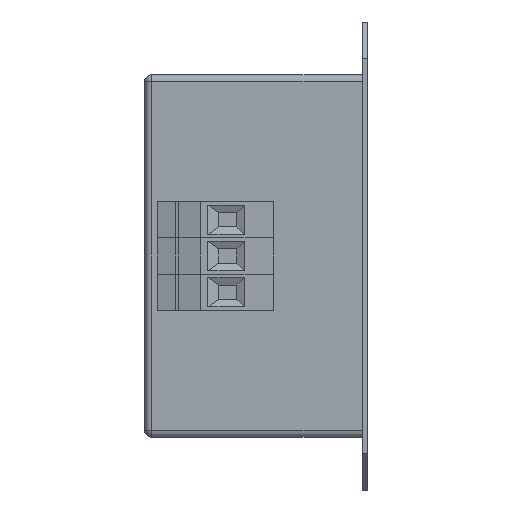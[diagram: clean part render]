
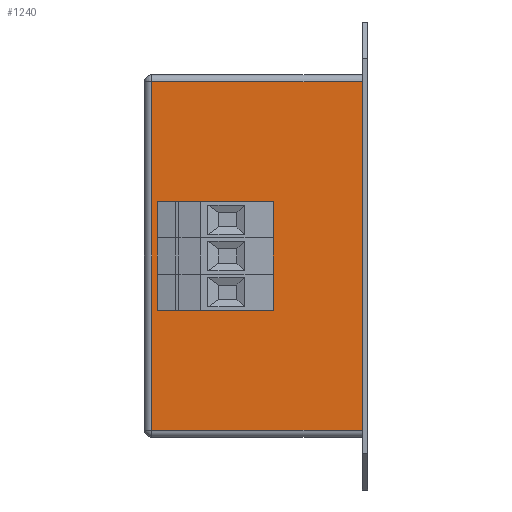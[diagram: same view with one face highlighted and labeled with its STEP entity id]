
A CAD part, left-side view. The second image highlights one B-rep face of the part: STEP entity #1240.
In plain terms, the highlighted planar face has unit normal (-1, 0, 0).
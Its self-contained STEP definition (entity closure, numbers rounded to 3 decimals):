
#1131 = VERTEX_POINT ( 'NONE', #2990 ) ;
#1135 = EDGE_CURVE ( 'NONE', #1131, #1136, #2986, .T. ) ;
#1136 = VERTEX_POINT ( 'NONE', #2981 ) ;
#1140 = ORIENTED_EDGE ( 'NONE', *, *, #1298, .T. ) ;
#1165 = VERTEX_POINT ( 'NONE', #3022 ) ;
#1166 = ORIENTED_EDGE ( 'NONE', *, *, #1135, .T. ) ;
#1167 = EDGE_LOOP ( 'NONE', ( #1140, #1293 ) ) ;
#1170 = VERTEX_POINT ( 'NONE', #3021 ) ;
#1171 = EDGE_LOOP ( 'NONE', ( #1172, #1166 ) ) ;
#1172 = ORIENTED_EDGE ( 'NONE', *, *, #1238, .T. ) ;
#1173 = EDGE_CURVE ( 'NONE', #1170, #1165, #3019, .T. ) ;
#1180 = VERTEX_POINT ( 'NONE', #3010 ) ;
#1193 = VERTEX_POINT ( 'NONE', #3045 ) ;
#1194 = EDGE_CURVE ( 'NONE', #1193, #1180, #3043, .T. ) ;
#1238 = EDGE_CURVE ( 'NONE', #1136, #1131, #3100, .T. ) ;
#1240 = ADVANCED_FACE ( 'NONE', ( #3154, #3153, #3152, #3151 ), #3150, .F. ) ;
#1292 = EDGE_LOOP ( 'NONE', ( #1296, #1295 ) ) ;
#1293 = ORIENTED_EDGE ( 'NONE', *, *, #1194, .T. ) ;
#1294 = EDGE_LOOP ( 'NONE', ( #1435, #1429, #1425, #1428 ) ) ;
#1295 = ORIENTED_EDGE ( 'NONE', *, *, #1173, .T. ) ;
#1296 = ORIENTED_EDGE ( 'NONE', *, *, #1297, .T. ) ;
#1297 = EDGE_CURVE ( 'NONE', #1165, #1170, #3189, .T. ) ;
#1298 = EDGE_CURVE ( 'NONE', #1180, #1193, #3247, .T. ) ;
#1419 = VERTEX_POINT ( 'NONE', #3387 ) ;
#1420 = VERTEX_POINT ( 'NONE', #3386 ) ;
#1425 = ORIENTED_EDGE ( 'NONE', *, *, #1426, .T. ) ;
#1426 = EDGE_CURVE ( 'NONE', #1419, #1432, #3126, .T. ) ;
#1427 = EDGE_CURVE ( 'NONE', #1434, #1420, #3439, .T. ) ;
#1428 = ORIENTED_EDGE ( 'NONE', *, *, #1436, .T. ) ;
#1429 = ORIENTED_EDGE ( 'NONE', *, *, #1433, .T. ) ;
#1432 = VERTEX_POINT ( 'NONE', #3429 ) ;
#1433 = EDGE_CURVE ( 'NONE', #1420, #1419, #3428, .T. ) ;
#1434 = VERTEX_POINT ( 'NONE', #3424 ) ;
#1435 = ORIENTED_EDGE ( 'NONE', *, *, #1427, .T. ) ;
#1436 = EDGE_CURVE ( 'NONE', #1432, #1434, #3423, .T. ) ;
#2981 = CARTESIAN_POINT ( 'NONE',  ( 0., 42., -58.55 ) ) ;
#2982 = DIRECTION ( 'NONE',  ( 0., 0., -1. ) ) ;
#2983 = DIRECTION ( 'NONE',  ( 1., 0., 0. ) ) ;
#2984 = CARTESIAN_POINT ( 'NONE',  ( 0., 42., -54.5 ) ) ;
#2985 = AXIS2_PLACEMENT_3D ( 'NONE', #2984, #2983, #2982 ) ;
#2986 = CIRCLE ( 'NONE', #2985, 4.05 ) ;
#2990 = CARTESIAN_POINT ( 'NONE',  ( 0., 42., -50.45 ) ) ;
#3010 = CARTESIAN_POINT ( 'NONE',  ( 0., 42., -78.55 ) ) ;
#3015 = DIRECTION ( 'NONE',  ( 0., 0., -1. ) ) ;
#3016 = DIRECTION ( 'NONE',  ( 1., 0., 0. ) ) ;
#3017 = CARTESIAN_POINT ( 'NONE',  ( 0., 42., -64.5 ) ) ;
#3018 = AXIS2_PLACEMENT_3D ( 'NONE', #3017, #3016, #3015 ) ;
#3019 = CIRCLE ( 'NONE', #3018, 4.05 ) ;
#3021 = CARTESIAN_POINT ( 'NONE',  ( 0., 42., -60.45 ) ) ;
#3022 = CARTESIAN_POINT ( 'NONE',  ( 0., 42., -68.55 ) ) ;
#3039 = DIRECTION ( 'NONE',  ( 0., 0., -1. ) ) ;
#3040 = DIRECTION ( 'NONE',  ( 1., 0., 0. ) ) ;
#3041 = CARTESIAN_POINT ( 'NONE',  ( 0., 42., -74.5 ) ) ;
#3042 = AXIS2_PLACEMENT_3D ( 'NONE', #3041, #3040, #3039 ) ;
#3043 = CIRCLE ( 'NONE', #3042, 4.05 ) ;
#3045 = CARTESIAN_POINT ( 'NONE',  ( 0., 42., -70.45 ) ) ;
#3096 = DIRECTION ( 'NONE',  ( 0., 0., -1. ) ) ;
#3097 = DIRECTION ( 'NONE',  ( 1., 0., 0. ) ) ;
#3098 = CARTESIAN_POINT ( 'NONE',  ( 0., 42., -54.5 ) ) ;
#3099 = AXIS2_PLACEMENT_3D ( 'NONE', #3098, #3097, #3096 ) ;
#3100 = CIRCLE ( 'NONE', #3099, 4.05 ) ;
#3125 = CARTESIAN_POINT ( 'NONE',  ( 0., 1.5, -114.5 ) ) ;
#3126 = LINE ( 'NONE', #3125, #3441 ) ;
#3145 = DIRECTION ( 'NONE',  ( 0., 0., -1. ) ) ;
#3146 = DIRECTION ( 'NONE',  ( 1., 0., 0. ) ) ;
#3147 = AXIS2_PLACEMENT_3D ( 'NONE', #3149, #3146, #3145 ) ;
#3149 = CARTESIAN_POINT ( 'NONE',  ( 0., 61.5, -114.5 ) ) ;
#3150 = PLANE ( 'NONE',  #3147 ) ;
#3151 = FACE_OUTER_BOUND ( 'NONE', #1294, .T. ) ;
#3152 = FACE_BOUND ( 'NONE', #1292, .T. ) ;
#3153 = FACE_BOUND ( 'NONE', #1167, .T. ) ;
#3154 = FACE_BOUND ( 'NONE', #1171, .T. ) ;
#3189 = CIRCLE ( 'NONE', #3195, 4.05 ) ;
#3195 = AXIS2_PLACEMENT_3D ( 'NONE', #3250, #3249, #3248 ) ;
#3243 = DIRECTION ( 'NONE',  ( 0., 0., -1. ) ) ;
#3244 = DIRECTION ( 'NONE',  ( 1., 0., 0. ) ) ;
#3245 = CARTESIAN_POINT ( 'NONE',  ( 0., 42., -74.5 ) ) ;
#3246 = AXIS2_PLACEMENT_3D ( 'NONE', #3245, #3244, #3243 ) ;
#3247 = CIRCLE ( 'NONE', #3246, 4.05 ) ;
#3248 = DIRECTION ( 'NONE',  ( 0., 0., -1. ) ) ;
#3249 = DIRECTION ( 'NONE',  ( 1., 0., 0. ) ) ;
#3250 = CARTESIAN_POINT ( 'NONE',  ( 0., 42., -64.5 ) ) ;
#3386 = CARTESIAN_POINT ( 'NONE',  ( 0., 59.5, -112.5 ) ) ;
#3387 = CARTESIAN_POINT ( 'NONE',  ( 0., 1.5, -112.5 ) ) ;
#3420 = DIRECTION ( 'NONE',  ( 0., 1., 0. ) ) ;
#3421 = VECTOR ( 'NONE', #3420, 1000. ) ;
#3422 = CARTESIAN_POINT ( 'NONE',  ( 0., 61.5, -16.5 ) ) ;
#3423 = LINE ( 'NONE', #3422, #3421 ) ;
#3424 = CARTESIAN_POINT ( 'NONE',  ( 0., 59.5, -16.5 ) ) ;
#3425 = DIRECTION ( 'NONE',  ( 0., -1., 0. ) ) ;
#3426 = VECTOR ( 'NONE', #3425, 1000. ) ;
#3427 = CARTESIAN_POINT ( 'NONE',  ( 0., 61.5, -112.5 ) ) ;
#3428 = LINE ( 'NONE', #3427, #3426 ) ;
#3429 = CARTESIAN_POINT ( 'NONE',  ( 0., 1.5, -16.5 ) ) ;
#3436 = DIRECTION ( 'NONE',  ( 0., 0., -1. ) ) ;
#3437 = VECTOR ( 'NONE', #3436, 1000. ) ;
#3438 = CARTESIAN_POINT ( 'NONE',  ( 0., 59.5, -114.5 ) ) ;
#3439 = LINE ( 'NONE', #3438, #3437 ) ;
#3440 = DIRECTION ( 'NONE',  ( 0., 0., 1. ) ) ;
#3441 = VECTOR ( 'NONE', #3440, 1000. ) ;
